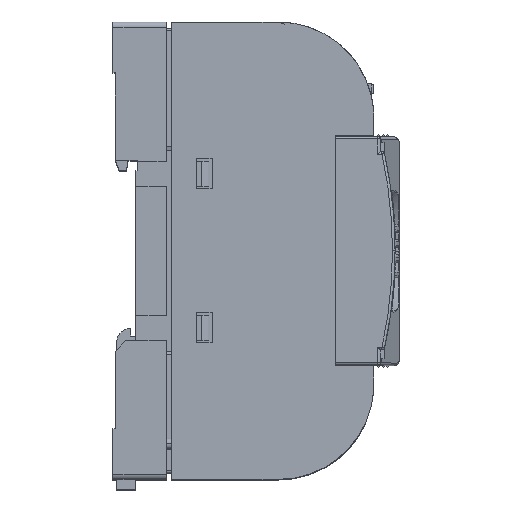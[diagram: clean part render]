
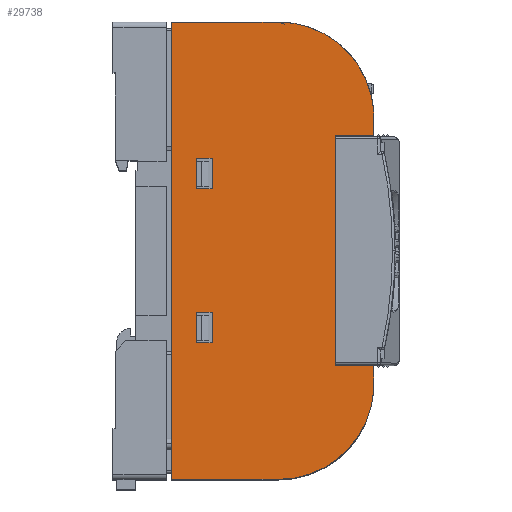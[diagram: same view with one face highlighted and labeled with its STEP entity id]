
A CAD part, top view. The second image highlights one B-rep face of the part: STEP entity #29738.
In plain terms, the highlighted planar face has unit normal (0, 0, 1).
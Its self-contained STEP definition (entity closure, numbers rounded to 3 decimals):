
#517 = VERTEX_POINT ( 'NONE', #7928 ) ;
#797 = EDGE_CURVE ( 'NONE', #5668, #28161, #31906, .T. ) ;
#837 = EDGE_CURVE ( 'NONE', #12924, #517, #39880, .T. ) ;
#848 = EDGE_CURVE ( 'NONE', #8959, #21569, #2287, .T. ) ;
#1126 = ORIENTED_EDGE ( 'NONE', *, *, #13574, .T. ) ;
#1485 = CARTESIAN_POINT ( 'NONE',  ( -146.366, 31.915, 35.5 ) ) ;
#1639 = CARTESIAN_POINT ( 'NONE',  ( -138.866, -13.185, 35.5 ) ) ;
#1700 = VERTEX_POINT ( 'NONE', #30011 ) ;
#1797 = VERTEX_POINT ( 'NONE', #26681 ) ;
#1896 = CARTESIAN_POINT ( 'NONE',  ( -157.666, -35.685, 35.5 ) ) ;
#2203 = CARTESIAN_POINT ( 'NONE',  ( -157.666, -16.836, 35.5 ) ) ;
#2221 = VECTOR ( 'NONE', #45240, 1000. ) ;
#2287 = LINE ( 'NONE', #49452, #2221 ) ;
#2408 = CARTESIAN_POINT ( 'NONE',  ( -173.666, 21.465, 35.5 ) ) ;
#2505 = AXIS2_PLACEMENT_3D ( 'NONE', #34310, #50311, #11415 ) ;
#2818 = EDGE_CURVE ( 'NONE', #22590, #5668, #28463, .T. ) ;
#2936 = CARTESIAN_POINT ( 'NONE',  ( -173.666, -2.835, 35.5 ) ) ;
#3164 = CIRCLE ( 'NONE', #31028, 18.848 ) ;
#3169 = DIRECTION ( 'NONE',  ( 1., 0., 0. ) ) ;
#3308 = VERTEX_POINT ( 'NONE', #27793 ) ;
#3936 = CARTESIAN_POINT ( 'NONE',  ( -178.666, 54.315, 35.5 ) ) ;
#4091 = VECTOR ( 'NONE', #47652, 1000. ) ;
#4650 = FACE_BOUND ( 'NONE', #9961, .T. ) ;
#4716 = DIRECTION ( 'NONE',  ( 0., -1., 0. ) ) ;
#5178 = CARTESIAN_POINT ( 'NONE',  ( -173.666, -2.835, 35.5 ) ) ;
#5668 = VERTEX_POINT ( 'NONE', #11753 ) ;
#5946 = CARTESIAN_POINT ( 'NONE',  ( -173.666, 21.465, 35.5 ) ) ;
#6389 = LINE ( 'NONE', #14614, #20960 ) ;
#6454 = VECTOR ( 'NONE', #47125, 1000. ) ;
#7240 = LINE ( 'NONE', #3936, #33898 ) ;
#7627 = PLANE ( 'NONE',  #30516 ) ;
#7659 = VERTEX_POINT ( 'NONE', #22294 ) ;
#7928 = CARTESIAN_POINT ( 'NONE',  ( -138.866, -13.285, 35.5 ) ) ;
#8139 = EDGE_CURVE ( 'NONE', #10718, #7659, #3164, .T. ) ;
#8308 = CARTESIAN_POINT ( 'NONE',  ( -157.666, 54.315, 35.5 ) ) ;
#8959 = VERTEX_POINT ( 'NONE', #8308 ) ;
#9791 = DIRECTION ( 'NONE',  ( 0., 0., -1. ) ) ;
#9961 = EDGE_LOOP ( 'NONE', ( #29688, #1126, #11105, #47118 ) ) ;
#10019 = FACE_OUTER_BOUND ( 'NONE', #13206, .T. ) ;
#10115 = VECTOR ( 'NONE', #3169, 1000. ) ;
#10135 = DIRECTION ( 'NONE',  ( -1., 0., 0. ) ) ;
#10176 = DIRECTION ( 'NONE',  ( 1., 0., 0. ) ) ;
#10195 = VERTEX_POINT ( 'NONE', #2408 ) ;
#10718 = VERTEX_POINT ( 'NONE', #30127 ) ;
#10737 = CARTESIAN_POINT ( 'NONE',  ( -173.666, -8.835, 35.5 ) ) ;
#11105 = ORIENTED_EDGE ( 'NONE', *, *, #44532, .T. ) ;
#11415 = DIRECTION ( 'NONE',  ( 1., 0., 0. ) ) ;
#11560 = LINE ( 'NONE', #44051, #25570 ) ;
#11693 = DIRECTION ( 'NONE',  ( 0., -1., 0. ) ) ;
#11753 = CARTESIAN_POINT ( 'NONE',  ( -173.666, -8.835, 35.5 ) ) ;
#12329 = LINE ( 'NONE', #2936, #41538 ) ;
#12638 = CARTESIAN_POINT ( 'NONE',  ( -146.366, -13.285, 35.5 ) ) ;
#12924 = VERTEX_POINT ( 'NONE', #12638 ) ;
#12962 = VECTOR ( 'NONE', #29129, 1000. ) ;
#13206 = EDGE_LOOP ( 'NONE', ( #36672, #26646, #49164, #49441, #27263, #15595, #39634, #37824, #21563, #34029 ) ) ;
#13432 = DIRECTION ( 'NONE',  ( 1., 0., 0. ) ) ;
#13574 = EDGE_CURVE ( 'NONE', #22590, #43167, #12329, .T. ) ;
#14124 = CARTESIAN_POINT ( 'NONE',  ( -146.366, -13.285, 35.5 ) ) ;
#14261 = EDGE_CURVE ( 'NONE', #23379, #3308, #28554, .T. ) ;
#14614 = CARTESIAN_POINT ( 'NONE',  ( -146.366, 31.915, 35.5 ) ) ;
#15595 = ORIENTED_EDGE ( 'NONE', *, *, #848, .T. ) ;
#15767 = DIRECTION ( 'NONE',  ( -1., 0., 0. ) ) ;
#17656 = VECTOR ( 'NONE', #13432, 1000. ) ;
#18215 = DIRECTION ( 'NONE',  ( 0., -1., 0. ) ) ;
#18725 = CARTESIAN_POINT ( 'NONE',  ( -178.666, -35.685, 35.5 ) ) ;
#19293 = LINE ( 'NONE', #1896, #27189 ) ;
#20103 = EDGE_CURVE ( 'NONE', #1700, #1797, #37107, .T. ) ;
#20710 = EDGE_CURVE ( 'NONE', #21569, #40022, #7240, .T. ) ;
#20960 = VECTOR ( 'NONE', #36513, 1000. ) ;
#21152 = DIRECTION ( 'NONE',  ( 0., -1., 0. ) ) ;
#21443 = EDGE_CURVE ( 'NONE', #3308, #38445, #25882, .T. ) ;
#21563 = ORIENTED_EDGE ( 'NONE', *, *, #8139, .F. ) ;
#21569 = VERTEX_POINT ( 'NONE', #44406 ) ;
#22294 = CARTESIAN_POINT ( 'NONE',  ( -157.666, -35.685, 35.5 ) ) ;
#22590 = VERTEX_POINT ( 'NONE', #5178 ) ;
#23379 = VERTEX_POINT ( 'NONE', #33861 ) ;
#23498 = ORIENTED_EDGE ( 'NONE', *, *, #21443, .T. ) ;
#23653 = CARTESIAN_POINT ( 'NONE',  ( -173.666, -2.835, 35.5 ) ) ;
#23729 = VERTEX_POINT ( 'NONE', #1485 ) ;
#23913 = CARTESIAN_POINT ( 'NONE',  ( -170.666, -2.835, 35.5 ) ) ;
#24112 = CARTESIAN_POINT ( 'NONE',  ( -170.666, -8.835, 35.5 ) ) ;
#24162 = VECTOR ( 'NONE', #26377, 1000. ) ;
#25570 = VECTOR ( 'NONE', #36373, 1000. ) ;
#25882 = LINE ( 'NONE', #39985, #6454 ) ;
#26377 = DIRECTION ( 'NONE',  ( 1., 0., 0. ) ) ;
#26646 = ORIENTED_EDGE ( 'NONE', *, *, #43477, .F. ) ;
#26681 = CARTESIAN_POINT ( 'NONE',  ( -138.866, 31.915, 35.5 ) ) ;
#27153 = DIRECTION ( 'NONE',  ( 0., 0., -1. ) ) ;
#27189 = VECTOR ( 'NONE', #10135, 1000. ) ;
#27263 = ORIENTED_EDGE ( 'NONE', *, *, #41004, .T. ) ;
#27584 = LINE ( 'NONE', #5946, #12962 ) ;
#27793 = CARTESIAN_POINT ( 'NONE',  ( -170.666, 27.465, 35.5 ) ) ;
#28161 = VERTEX_POINT ( 'NONE', #24112 ) ;
#28463 = LINE ( 'NONE', #23653, #46126 ) ;
#28554 = LINE ( 'NONE', #40449, #17656 ) ;
#28876 = EDGE_CURVE ( 'NONE', #23379, #10195, #40657, .T. ) ;
#29129 = DIRECTION ( 'NONE',  ( 1., 0., 0. ) ) ;
#29228 = CIRCLE ( 'NONE', #2505, 18.848 ) ;
#29688 = ORIENTED_EDGE ( 'NONE', *, *, #2818, .F. ) ;
#29738 = ADVANCED_FACE ( 'NONE', ( #43519, #4650, #10019 ), #7627, .F. ) ;
#30011 = CARTESIAN_POINT ( 'NONE',  ( -138.866, 36.815, 35.5 ) ) ;
#30127 = CARTESIAN_POINT ( 'NONE',  ( -138.866, -18.185, 35.5 ) ) ;
#30366 = ORIENTED_EDGE ( 'NONE', *, *, #28876, .F. ) ;
#30516 = AXIS2_PLACEMENT_3D ( 'NONE', #35100, #27153, #15767 ) ;
#30913 = EDGE_CURVE ( 'NONE', #517, #10718, #46280, .T. ) ;
#31028 = AXIS2_PLACEMENT_3D ( 'NONE', #2203, #9791, #33518 ) ;
#31906 = LINE ( 'NONE', #10737, #24162 ) ;
#33518 = DIRECTION ( 'NONE',  ( -1., 0., 0. ) ) ;
#33619 = EDGE_CURVE ( 'NONE', #23729, #1797, #6389, .T. ) ;
#33861 = CARTESIAN_POINT ( 'NONE',  ( -173.666, 27.465, 35.5 ) ) ;
#33882 = CARTESIAN_POINT ( 'NONE',  ( -170.666, -2.835, 35.5 ) ) ;
#33898 = VECTOR ( 'NONE', #11693, 1000. ) ;
#34029 = ORIENTED_EDGE ( 'NONE', *, *, #30913, .F. ) ;
#34102 = EDGE_CURVE ( 'NONE', #7659, #40022, #19293, .T. ) ;
#34310 = CARTESIAN_POINT ( 'NONE',  ( -157.666, 35.467, 35.5 ) ) ;
#34661 = VECTOR ( 'NONE', #18215, 1000. ) ;
#35100 = CARTESIAN_POINT ( 'NONE',  ( -157.666, -16.836, 35.5 ) ) ;
#35188 = VECTOR ( 'NONE', #4716, 1000. ) ;
#35869 = CARTESIAN_POINT ( 'NONE',  ( -173.666, 27.465, 35.5 ) ) ;
#36373 = DIRECTION ( 'NONE',  ( 0., -1., 0. ) ) ;
#36513 = DIRECTION ( 'NONE',  ( 1., 0., 0. ) ) ;
#36672 = ORIENTED_EDGE ( 'NONE', *, *, #837, .F. ) ;
#37107 = LINE ( 'NONE', #45547, #34661 ) ;
#37824 = ORIENTED_EDGE ( 'NONE', *, *, #34102, .F. ) ;
#38445 = VERTEX_POINT ( 'NONE', #46403 ) ;
#38983 = VECTOR ( 'NONE', #21152, 1000. ) ;
#39483 = ORIENTED_EDGE ( 'NONE', *, *, #46872, .F. ) ;
#39634 = ORIENTED_EDGE ( 'NONE', *, *, #20710, .T. ) ;
#39880 = LINE ( 'NONE', #14124, #10115 ) ;
#39985 = CARTESIAN_POINT ( 'NONE',  ( -170.666, 27.465, 35.5 ) ) ;
#40022 = VERTEX_POINT ( 'NONE', #18725 ) ;
#40387 = ORIENTED_EDGE ( 'NONE', *, *, #14261, .T. ) ;
#40449 = CARTESIAN_POINT ( 'NONE',  ( -173.666, 27.465, 35.5 ) ) ;
#40657 = LINE ( 'NONE', #35869, #35188 ) ;
#41004 = EDGE_CURVE ( 'NONE', #1700, #8959, #29228, .T. ) ;
#41538 = VECTOR ( 'NONE', #10176, 1000. ) ;
#41724 = LINE ( 'NONE', #23913, #4091 ) ;
#43167 = VERTEX_POINT ( 'NONE', #33882 ) ;
#43477 = EDGE_CURVE ( 'NONE', #23729, #12924, #11560, .T. ) ;
#43519 = FACE_BOUND ( 'NONE', #46397, .T. ) ;
#44051 = CARTESIAN_POINT ( 'NONE',  ( -146.366, 31.815, 35.5 ) ) ;
#44406 = CARTESIAN_POINT ( 'NONE',  ( -178.666, 54.315, 35.5 ) ) ;
#44532 = EDGE_CURVE ( 'NONE', #43167, #28161, #41724, .T. ) ;
#45240 = DIRECTION ( 'NONE',  ( -1., 0., 0. ) ) ;
#45547 = CARTESIAN_POINT ( 'NONE',  ( -138.866, -13.185, 35.5 ) ) ;
#46126 = VECTOR ( 'NONE', #47378, 1000. ) ;
#46280 = LINE ( 'NONE', #1639, #38983 ) ;
#46397 = EDGE_LOOP ( 'NONE', ( #30366, #40387, #23498, #39483 ) ) ;
#46403 = CARTESIAN_POINT ( 'NONE',  ( -170.666, 21.465, 35.5 ) ) ;
#46872 = EDGE_CURVE ( 'NONE', #10195, #38445, #27584, .T. ) ;
#47118 = ORIENTED_EDGE ( 'NONE', *, *, #797, .F. ) ;
#47125 = DIRECTION ( 'NONE',  ( 0., -1., 0. ) ) ;
#47378 = DIRECTION ( 'NONE',  ( 0., -1., 0. ) ) ;
#47652 = DIRECTION ( 'NONE',  ( 0., -1., 0. ) ) ;
#49164 = ORIENTED_EDGE ( 'NONE', *, *, #33619, .T. ) ;
#49441 = ORIENTED_EDGE ( 'NONE', *, *, #20103, .F. ) ;
#49452 = CARTESIAN_POINT ( 'NONE',  ( -157.666, 54.315, 35.5 ) ) ;
#50311 = DIRECTION ( 'NONE',  ( 0., 0., 1. ) ) ;
